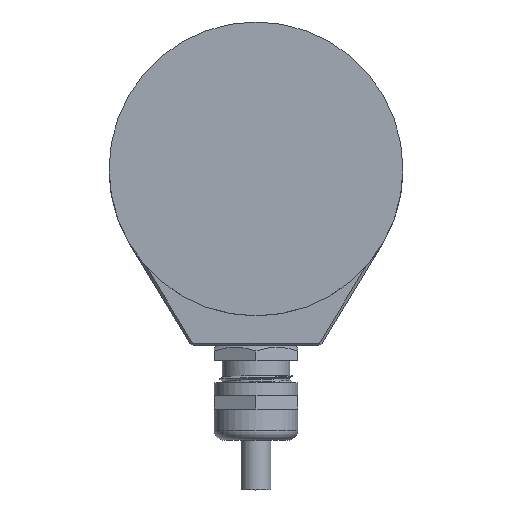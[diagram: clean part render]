
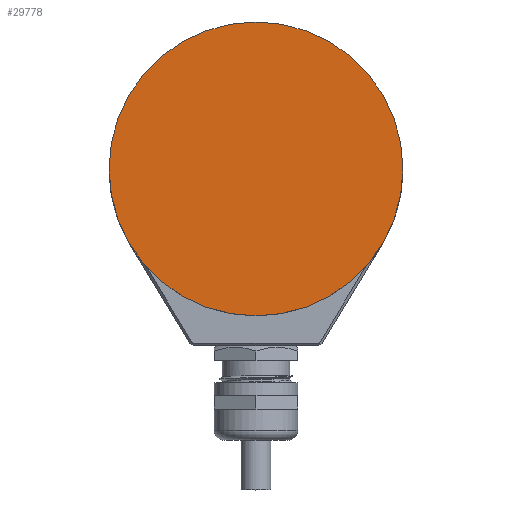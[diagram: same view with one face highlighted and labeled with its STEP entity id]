
A CAD part, top view. The second image highlights one B-rep face of the part: STEP entity #29778.
In plain terms, the highlighted planar face has unit normal (0, 0, 1).
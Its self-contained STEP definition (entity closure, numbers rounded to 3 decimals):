
#12740 = CARTESIAN_POINT ( 'NONE',  ( 29.5, 0., 29. ) ) ;
#12741 = CARTESIAN_POINT ( 'NONE',  ( -29.5, 0., 29. ) ) ;
#12742 = DIRECTION ( 'NONE',  ( -1., 0., 0. ) ) ;
#12743 = DIRECTION ( 'NONE',  ( 0., 0., 1. ) ) ;
#12744 = CARTESIAN_POINT ( 'NONE',  ( 0., 0., 29. ) ) ;
#12745 = AXIS2_PLACEMENT_3D ( 'NONE', #12744, #12743, #12742 ) ;
#12746 = CIRCLE ( 'NONE', #12745, 29.5 ) ;
#13126 = FACE_OUTER_BOUND ( 'NONE', #29779, .T. ) ;
#13161 = DIRECTION ( 'NONE',  ( -1., 0., 0. ) ) ;
#13162 = DIRECTION ( 'NONE',  ( 0., 0., 1. ) ) ;
#13163 = CARTESIAN_POINT ( 'NONE',  ( 0., 0., 29. ) ) ;
#13164 = AXIS2_PLACEMENT_3D ( 'NONE', #13163, #13162, #13161 ) ;
#13166 = PLANE ( 'NONE',  #13164 ) ;
#13721 = DIRECTION ( 'NONE',  ( -1., 0., 0. ) ) ;
#13722 = DIRECTION ( 'NONE',  ( 0., 0., 1. ) ) ;
#13723 = CARTESIAN_POINT ( 'NONE',  ( 0., 0., 29. ) ) ;
#13724 = AXIS2_PLACEMENT_3D ( 'NONE', #13723, #13722, #13721 ) ;
#13725 = CIRCLE ( 'NONE', #13724, 29.5 ) ;
#29632 = EDGE_CURVE ( 'NONE', #29633, #29634, #12746, .T. ) ;
#29633 = VERTEX_POINT ( 'NONE', #12741 ) ;
#29634 = VERTEX_POINT ( 'NONE', #12740 ) ;
#29778 = ADVANCED_FACE ( 'NONE', ( #13126 ), #13166, .T. ) ;
#29779 = EDGE_LOOP ( 'NONE', ( #29780, #29911 ) ) ;
#29780 = ORIENTED_EDGE ( 'NONE', *, *, #29962, .T. ) ;
#29911 = ORIENTED_EDGE ( 'NONE', *, *, #29632, .T. ) ;
#29962 = EDGE_CURVE ( 'NONE', #29634, #29633, #13725, .T. ) ;
